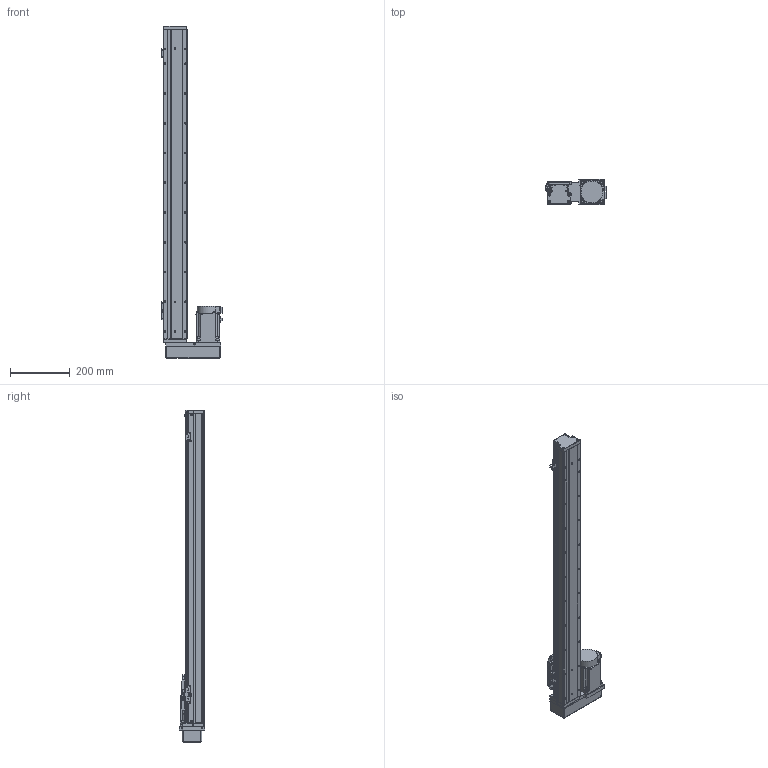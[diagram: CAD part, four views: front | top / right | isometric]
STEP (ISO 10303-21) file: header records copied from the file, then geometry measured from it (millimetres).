
FILE_DESCRIPTION (( 'STEP AP203' ), '1' );
FILE_NAME ('GTH8-850-BR-M75-C4.step', '2023-02-14T02:35:04', ( '微软用户' ), ( '微软中国' ), 'SwSTEP 2.0', 'SolidWorks 2020', '' );
FILE_SCHEMA (( 'CONFIG_CONTROL_DESIGN' ));
Length unit declared in the file: millimetre
Products named in the file (18): hg-kn73j_-s100; GTH80-022; GTH50-024; GTH8-850-BR-M75-C4; GTH80-001_850; GBT 70.1-M3℅6; GTH50-023; GTH80-003; GBT 70.1-M4×16; GBT96.1-2002 3×0.8; GTH80-004; BTH-M3X5X6; GTH80-006; CTHA86-015-3_CTHA86-015-4; GTH80-013; CTHA86-035; GBT 70.3-M3℅6; GTH80-028
Assembly tree (57 placements, depth 2):
  GTH8-850-BR-M75-C4
    GTH80-001_850
    GTH80-003
    GTH80-004
    GTH80-006
    GTH80-013
    GBT 70.3-M3℅6  x4
    GTH80-022
    GBT 70.1-M3℅6  x14
    GBT 70.1-M4×16  x8
    GTH80-028  x2
    GTH50-024  x3
    GTH50-023  x3
    GBT96.1-2002 3×0.8  x6
    BTH-M3X5X6  x8
    CTHA86-015-3_CTHA86-015-4
    CTHA86-035
    hg-kn73j_-s100
Bounding box: 204.7 x 87 x 1116 mm (x, y, z)
Volume: 6047182.7 mm3; surface area: 589829.5 mm2
Topology: 59 solids, 59 shells, 2207 faces, 5130 edges, 3144 vertices
Faces by surface type: plane 1153, cylinder 639, cone 243, torus 158, sphere 12, bspline 2
Entity records: 40032 total; most frequent: CARTESIAN_POINT 6719, DIRECTION 6613, ORIENTED_EDGE 6070, EDGE_CURVE 3035, AXIS2_PLACEMENT_3D 2338, LINE 1937, VECTOR 1937, VERTEX_POINT 1919
